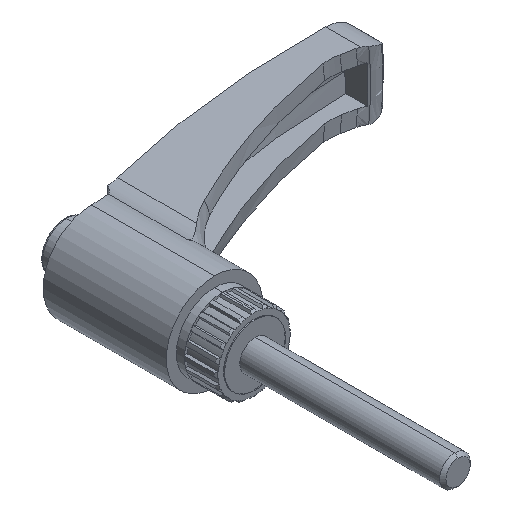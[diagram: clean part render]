
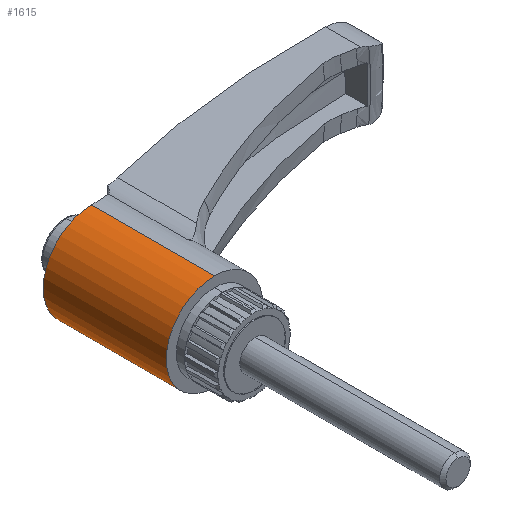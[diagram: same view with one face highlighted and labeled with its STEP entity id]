
A CAD part, isometric view. The second image highlights one B-rep face of the part: STEP entity #1615.
In plain terms, the highlighted cylindrical face has radius 9.5 mm (diameter 19 mm), a partial arc.
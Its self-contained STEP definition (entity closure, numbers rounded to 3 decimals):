
#1 = EDGE_CURVE ( 'NONE', #1047, #5290, #2195, .T. ) ;
#677 = CARTESIAN_POINT ( 'NONE',  ( 0., 40., -9.5 ) ) ;
#747 = VERTEX_POINT ( 'NONE', #1496 ) ;
#786 = DIRECTION ( 'NONE',  ( 0., -1., 0. ) ) ;
#830 = VERTEX_POINT ( 'NONE', #6208 ) ;
#834 = DIRECTION ( 'NONE',  ( 0., 1., 0. ) ) ;
#1047 = VERTEX_POINT ( 'NONE', #2248 ) ;
#1063 = CIRCLE ( 'NONE', #3488, 9.5 ) ;
#1302 = ORIENTED_EDGE ( 'NONE', *, *, #1, .T. ) ;
#1399 = DIRECTION ( 'NONE',  ( 0., -1., 0. ) ) ;
#1496 = CARTESIAN_POINT ( 'NONE',  ( 0., 24.25, 9.5 ) ) ;
#1615 = ADVANCED_FACE ( 'NONE', ( #4096 ), #3659, .T. ) ;
#1693 = DIRECTION ( 'NONE',  ( 0., 0., -1. ) ) ;
#1709 = LINE ( 'NONE', #2622, #2670 ) ;
#1712 = CARTESIAN_POINT ( 'NONE',  ( 0., 0., 0. ) ) ;
#2195 = CIRCLE ( 'NONE', #5899, 9.5 ) ;
#2248 = CARTESIAN_POINT ( 'NONE',  ( 0., 0., -9.5 ) ) ;
#2426 = ORIENTED_EDGE ( 'NONE', *, *, #3176, .T. ) ;
#2431 = DIRECTION ( 'NONE',  ( 0., 0., -1. ) ) ;
#2597 = DIRECTION ( 'NONE',  ( 0., -1., 0. ) ) ;
#2622 = CARTESIAN_POINT ( 'NONE',  ( 0., 40., 9.5 ) ) ;
#2670 = VECTOR ( 'NONE', #5046, 1000. ) ;
#2756 = DIRECTION ( 'NONE',  ( 0., 0., -1. ) ) ;
#3176 = EDGE_CURVE ( 'NONE', #830, #1047, #5463, .T. ) ;
#3187 = CARTESIAN_POINT ( 'NONE',  ( 0., 40., 0. ) ) ;
#3259 = ORIENTED_EDGE ( 'NONE', *, *, #5038, .T. ) ;
#3448 = CARTESIAN_POINT ( 'NONE',  ( 0., 24.25, 0. ) ) ;
#3488 = AXIS2_PLACEMENT_3D ( 'NONE', #3448, #1399, #2431 ) ;
#3565 = VECTOR ( 'NONE', #2597, 1000. ) ;
#3601 = EDGE_LOOP ( 'NONE', ( #4216, #3259, #2426, #1302 ) ) ;
#3659 = CYLINDRICAL_SURFACE ( 'NONE', #4806, 9.5 ) ;
#4096 = FACE_OUTER_BOUND ( 'NONE', #3601, .T. ) ;
#4216 = ORIENTED_EDGE ( 'NONE', *, *, #4812, .F. ) ;
#4806 = AXIS2_PLACEMENT_3D ( 'NONE', #3187, #786, #1693 ) ;
#4812 = EDGE_CURVE ( 'NONE', #747, #5290, #1709, .T. ) ;
#5038 = EDGE_CURVE ( 'NONE', #747, #830, #1063, .T. ) ;
#5046 = DIRECTION ( 'NONE',  ( 0., -1., 0. ) ) ;
#5290 = VERTEX_POINT ( 'NONE', #5385 ) ;
#5385 = CARTESIAN_POINT ( 'NONE',  ( 0., 0., 9.5 ) ) ;
#5463 = LINE ( 'NONE', #677, #3565 ) ;
#5899 = AXIS2_PLACEMENT_3D ( 'NONE', #1712, #834, #2756 ) ;
#6208 = CARTESIAN_POINT ( 'NONE',  ( 0., 24.25, -9.5 ) ) ;
